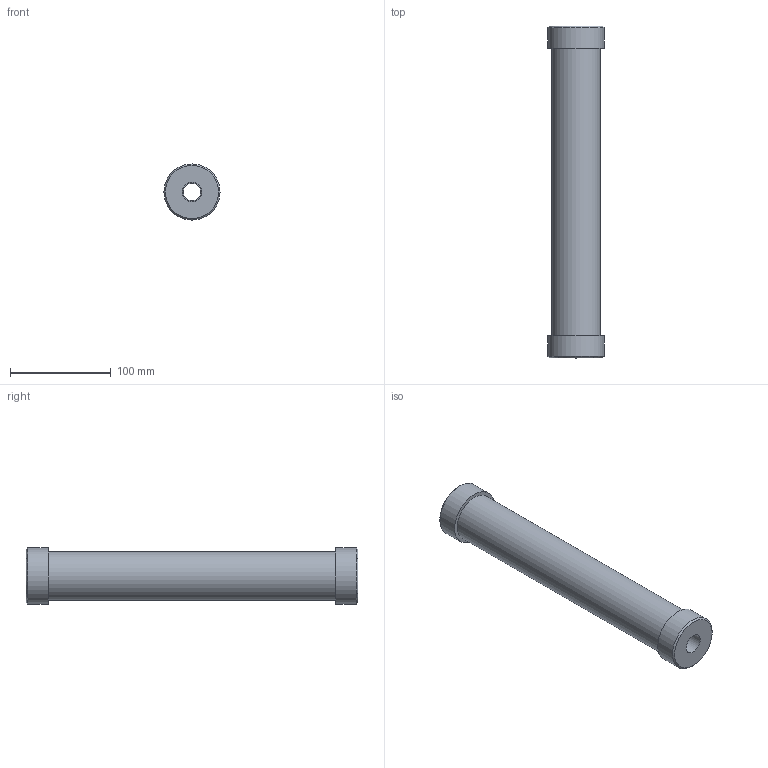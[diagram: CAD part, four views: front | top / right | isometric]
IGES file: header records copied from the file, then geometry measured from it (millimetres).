
Start section: SolidWorks IGES file using analytic representation for surfaces
Global section: file name: F:\Griffco-Valve\Griffco_current-projects\GV_web-files_2015\CAL cylinders\CC0300_P_BSPT.IGS; native system: SolidWorks 2014; preprocessor: SolidWorks 2014; author: Dan; date: 160321.044107; units: inch
Bounding box: 55.88 x 330.2 x 55.88 mm (x, y, z)
Surface area: 97645.9 mm2 (no closed solid volume)
Topology: 0 solids, 0 shells, 18 faces, 47 edges, 37 vertices
Faces by surface type: revolution 10, bspline 8
